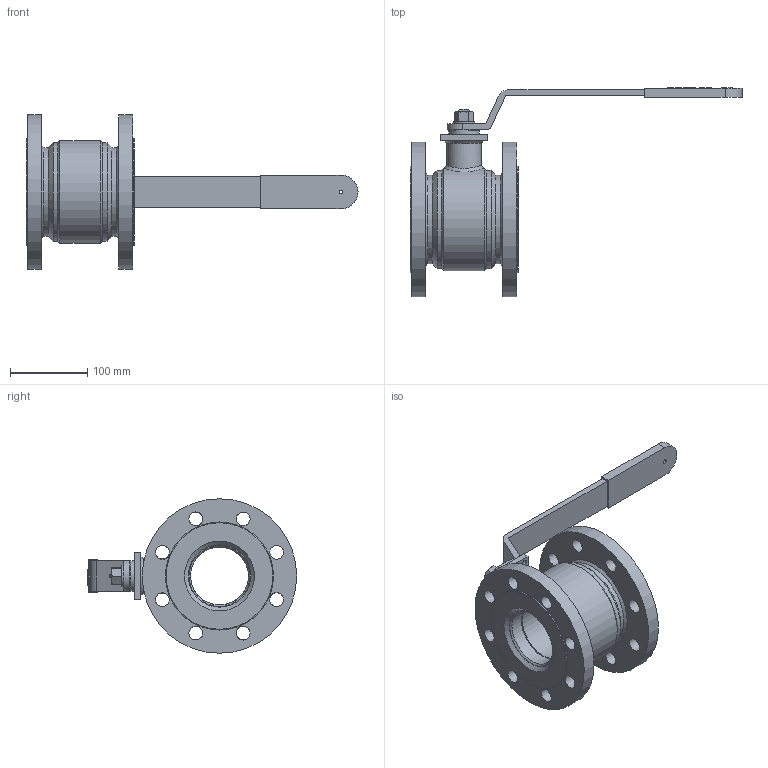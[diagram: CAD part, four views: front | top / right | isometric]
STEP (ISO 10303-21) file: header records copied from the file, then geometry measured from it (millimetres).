
FILE_DESCRIPTION(/* description */ (''),/* implementation_level */ '2;1');
FILE_NAME(/* name */ 'S:\Rysunki Konstrukcyjne\Dokumenty konstrukcyjne INVENTOR\Modele kooperacyjne\Rys. handlowe 31.10.2017 M. Moryto\80.21k.000.B1-10-16.00.stp',/* time_stamp */ '2017-10-31T08:20:26+01:00',/* author */ ('pdrozdzowski'),/* organization */ (''),/* preprocessor_version */ 'ST-DEVELOPER v15.6',/* originating_system */ 'Autodesk Inventor 2015',/* authorisation */ '');
FILE_SCHEMA (('AUTOMOTIVE_DESIGN { 1 0 10303 214 3 1 1 }'));
Length unit declared in the file: centimetre
Products named in the file (1): 80.21k.000.B1-10-16.00
Bounding box: 430 x 271.2 x 200 mm (x, y, z)
Volume: 1875209.7 mm3; surface area: 367308.8 mm2
Topology: 1 solids, 17 shells, 618 faces, 1593 edges, 1047 vertices
Faces by surface type: plane 450, cylinder 116, cone 42, torus 6, sphere 3, bspline 1
Full cylindrical faces by diameter (mm): 2 x2, 5 x1, 6.647 x4, 14 x1, 15 x1, 18 x16, 24 x1, 24.3 x1, 25 x3, 25.8 x1, 28 x1, 32 x1, 33 x2, 33.3 x1, 33.8 x1, 34 x1, 36.5 x1, 36.8 x2, 37 x2, 40 x1, 45 x1, 75 x3, 85 x2, 88.9 x4, 90.5 x4, 102 x2, 115 x2, 118.4 x2, 120.4 x1, 127 x2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
Entity records: 18571 total; most frequent: CARTESIAN_POINT 3592, DIRECTION 2938, ORIENTED_EDGE 2876, EDGE_CURVE 1438, LINE 1076, VECTOR 1076, VERTEX_POINT 995, AXIS2_PLACEMENT_3D 931
